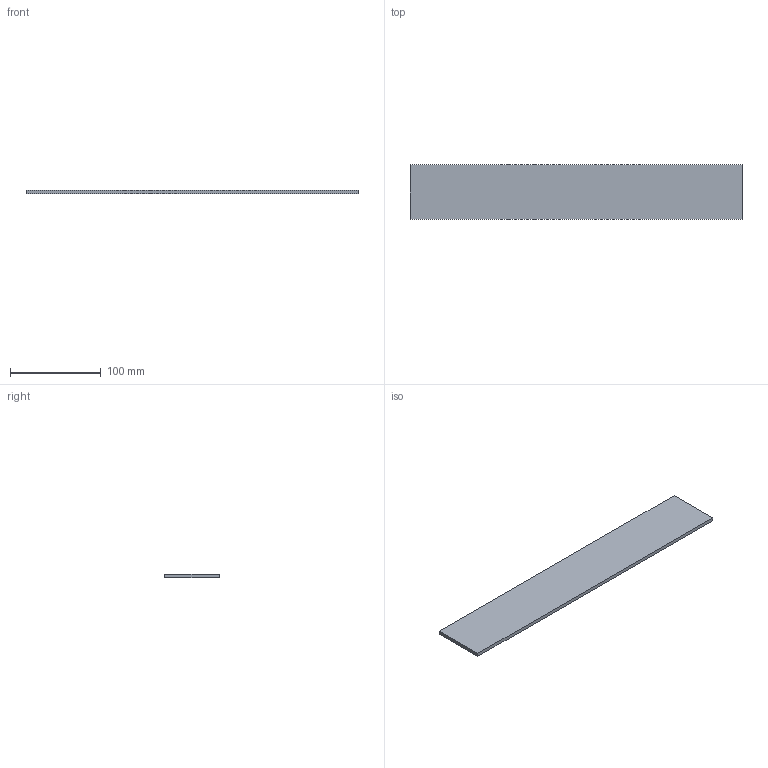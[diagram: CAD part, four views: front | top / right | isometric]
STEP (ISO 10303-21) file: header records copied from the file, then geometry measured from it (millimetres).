
FILE_DESCRIPTION (( 'STEP AP214' ), '1' );
FILE_NAME ('_Variowing Glasdekor NL400.step', '2010-07-14T13:33:37', ( 'grass' ), ( '' ), 'SwSTEP 2.0', 'SolidWorks 2010', '' );
FILE_SCHEMA (( 'AUTOMOTIVE_DESIGN' ));
Length unit declared in the file: millimetre
Products named in the file (1): _Variowing Glasdekor NL400
Bounding box: 365 x 60 x 4 mm (x, y, z)
Volume: 87600 mm3; surface area: 47200 mm2
Topology: 1 solids, 1 shells, 6 faces, 12 edges, 8 vertices
Faces by surface type: plane 6
Entity records: 190 total; most frequent: CARTESIAN_POINT 27, DIRECTION 26, ORIENTED_EDGE 24, LINE 12, VECTOR 12, EDGE_CURVE 12, VERTEX_POINT 8, AXIS2_PLACEMENT_3D 7
